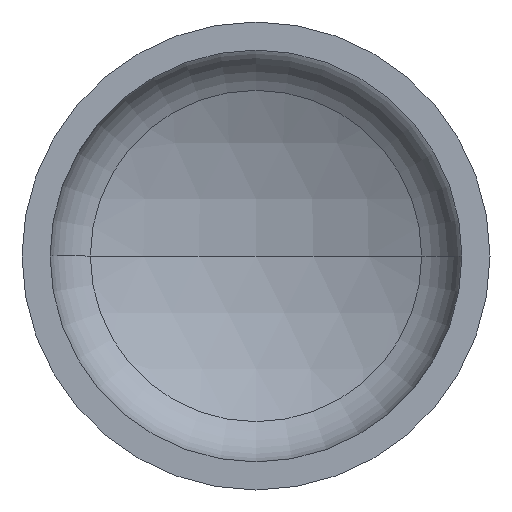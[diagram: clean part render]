
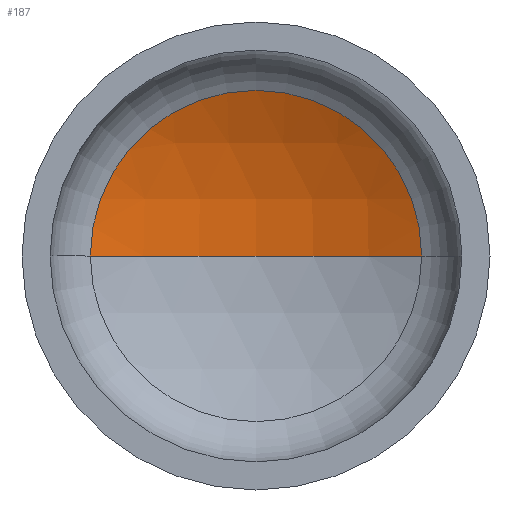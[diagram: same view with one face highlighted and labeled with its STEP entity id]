
A CAD part, front view. The second image highlights one B-rep face of the part: STEP entity #187.
In plain terms, the highlighted spherical face has radius 960 mm.
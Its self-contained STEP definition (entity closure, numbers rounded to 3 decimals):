
#1 = CARTESIAN_POINT ( 'NONE',  ( 0., -574.965, 0. ) ) ;
#7 = EDGE_LOOP ( 'NONE', ( #128, #44, #130 ) ) ;
#16 = AXIS2_PLACEMENT_3D ( 'NONE', #244, #282, #181 ) ;
#34 = AXIS2_PLACEMENT_3D ( 'NONE', #1, #155, #121 ) ;
#36 = AXIS2_PLACEMENT_3D ( 'NONE', #266, #98, #186 ) ;
#37 = AXIS2_PLACEMENT_3D ( 'NONE', #214, #211, #212 ) ;
#44 = ORIENTED_EDGE ( 'NONE', *, *, #82, .T. ) ;
#48 = VERTEX_POINT ( 'NONE', #404 ) ;
#51 = CARTESIAN_POINT ( 'NONE',  ( -424.877, 285.895, 0. ) ) ;
#71 = VERTEX_POINT ( 'NONE', #235 ) ;
#80 = EDGE_CURVE ( 'NONE', #71, #97, #262, .T. ) ;
#82 = EDGE_CURVE ( 'NONE', #48, #71, #255, .T. ) ;
#97 = VERTEX_POINT ( 'NONE', #51 ) ;
#98 = DIRECTION ( 'NONE',  ( 0., 0., 1. ) ) ;
#109 = EDGE_CURVE ( 'NONE', #48, #97, #318, .T. ) ;
#117 = FACE_OUTER_BOUND ( 'NONE', #7, .T. ) ;
#121 = DIRECTION ( 'NONE',  ( -1., 0., 0. ) ) ;
#128 = ORIENTED_EDGE ( 'NONE', *, *, #109, .F. ) ;
#130 = ORIENTED_EDGE ( 'NONE', *, *, #80, .T. ) ;
#155 = DIRECTION ( 'NONE',  ( 0., 0., -1. ) ) ;
#181 = DIRECTION ( 'NONE',  ( -1., 0., 0. ) ) ;
#186 = DIRECTION ( 'NONE',  ( 1., 0., 0. ) ) ;
#187 = ADVANCED_FACE ( 'NONE', ( #117 ), #249, .F. ) ;
#211 = DIRECTION ( 'NONE',  ( 0., -1., 0. ) ) ;
#212 = DIRECTION ( 'NONE',  ( 1., 0., 0. ) ) ;
#214 = CARTESIAN_POINT ( 'NONE',  ( 0., 285.895, 0. ) ) ;
#235 = CARTESIAN_POINT ( 'NONE',  ( 424.877, 285.895, 0. ) ) ;
#244 = CARTESIAN_POINT ( 'NONE',  ( 0., -574.965, 0. ) ) ;
#249 = SPHERICAL_SURFACE ( 'NONE', #16, 960. ) ;
#255 = CIRCLE ( 'NONE', #34, 960. ) ;
#262 = CIRCLE ( 'NONE', #37, 424.877 ) ;
#266 = CARTESIAN_POINT ( 'NONE',  ( 0., -574.965, 0. ) ) ;
#282 = DIRECTION ( 'NONE',  ( 0., 0., -1. ) ) ;
#318 = CIRCLE ( 'NONE', #36, 960. ) ;
#404 = CARTESIAN_POINT ( 'NONE',  ( 0., 385.035, 0. ) ) ;
